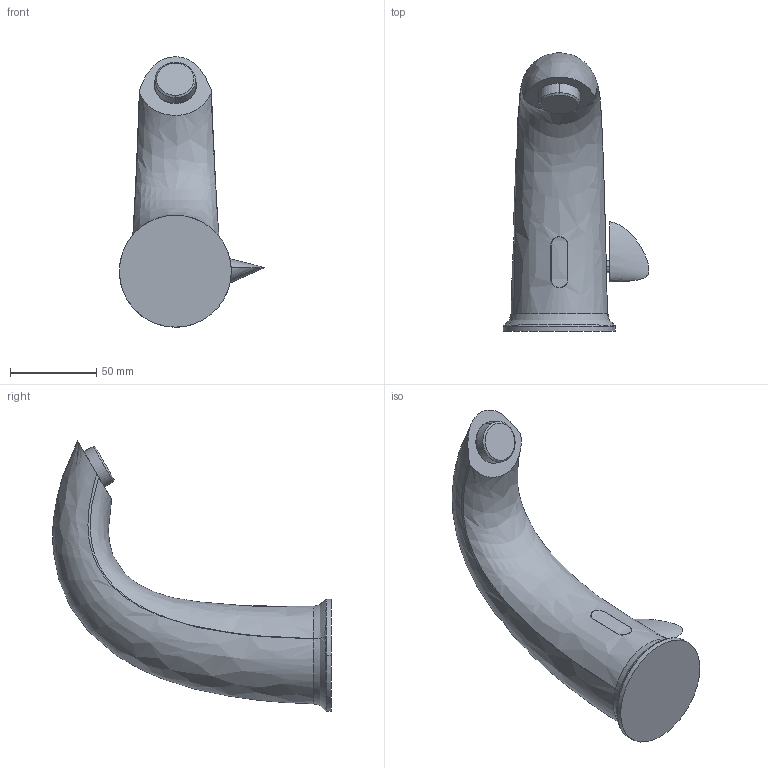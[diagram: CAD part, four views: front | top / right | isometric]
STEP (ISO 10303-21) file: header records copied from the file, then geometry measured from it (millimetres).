
FILE_DESCRIPTION (( 'STEP AP203' ), '1' );
FILE_NAME ('ES2210-F.STEP', '2023-02-16T13:17:48', ( '' ), ( '' ), 'SwSTEP 2.0', 'SolidWorks 2021', '' );
FILE_SCHEMA (( 'CONFIG_CONTROL_DESIGN' ));
Length unit declared in the file: millimetre
Products named in the file (1): ES2210-F
Bounding box: 84.46 x 161.99 x 157.16 mm (x, y, z)
Volume: 386989.9 mm3; surface area: 43177.9 mm2
Topology: 4 solids, 4 shells, 49 faces, 106 edges, 65 vertices
Faces by surface type: bspline 21, plane 12, cylinder 12, cone 2, torus 2
Entity records: 5992 total; most frequent: CARTESIAN_POINT 5011, ORIENTED_EDGE 204, DIRECTION 144, EDGE_CURVE 102, VERTEX_POINT 65, AXIS2_PLACEMENT_3D 61, EDGE_LOOP 53, ADVANCED_FACE 49
